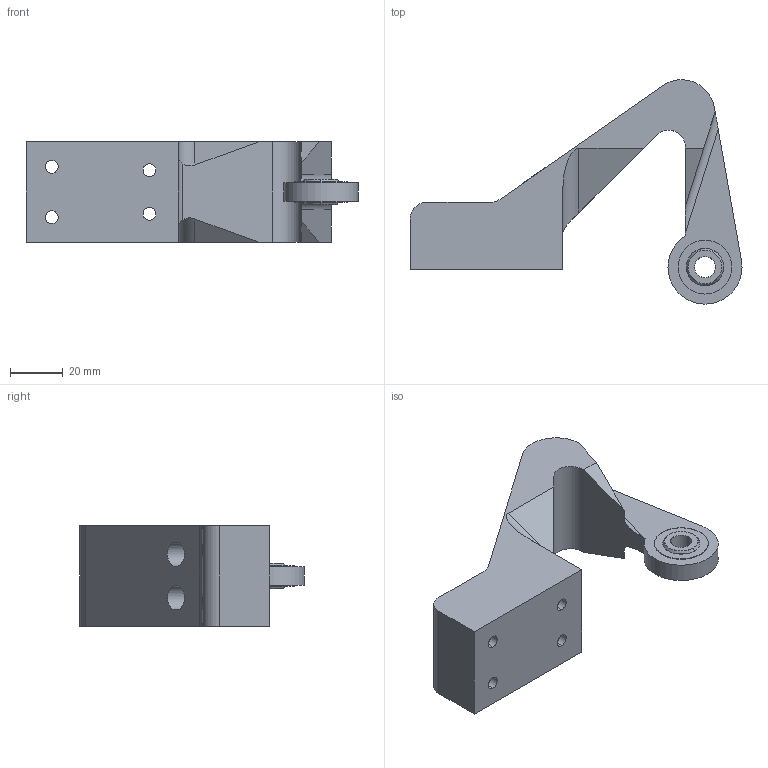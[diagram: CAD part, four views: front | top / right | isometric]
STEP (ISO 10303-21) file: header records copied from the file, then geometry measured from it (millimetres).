
FILE_DESCRIPTION (( 'STEP AP214' ), '1' );
FILE_NAME ('Bearing_Bracket_Assy_STEP214.STEP', '2016-01-08T21:22:05', ( '' ), ( '' ), 'SwSTEP 2.0', 'SolidWorks 2015', '' );
FILE_SCHEMA (( 'AUTOMOTIVE_DESIGN' ));
Length unit declared in the file: millimetre
Products named in the file (3): bearing_bracket_ball; flap_bearing_bracket_envelope; Bearing_Bracket_Assy_STEP214
Assembly tree (2 placements, depth 2):
  Bearing_Bracket_Assy_STEP214
    flap_bearing_bracket_envelope
    bearing_bracket_ball
Bounding box: 125.34 x 84.65 x 38.1 mm (x, y, z)
Volume: 110861.8 mm3; surface area: 25908.9 mm2
Topology: 2 solids, 2 shells, 80 faces, 214 edges, 138 vertices
Faces by surface type: cylinder 34, plane 26, torus 16, sphere 4
Entity records: 2774 total; most frequent: CARTESIAN_POINT 497, DIRECTION 462, ORIENTED_EDGE 408, EDGE_CURVE 204, AXIS2_PLACEMENT_3D 189, VERTEX_POINT 132, CIRCLE 104, EDGE_LOOP 96
